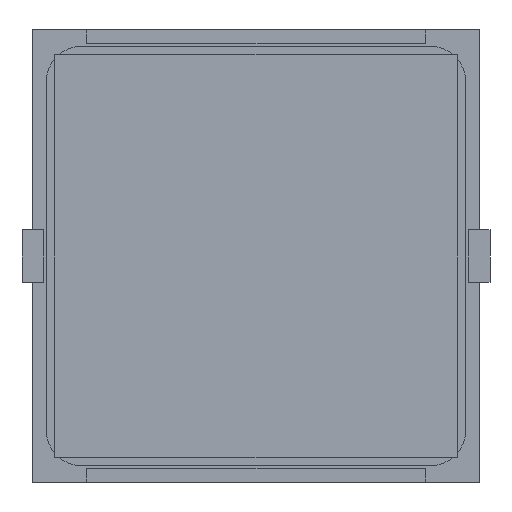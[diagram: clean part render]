
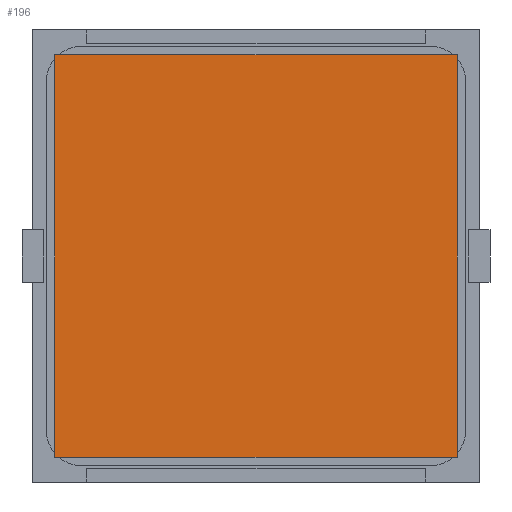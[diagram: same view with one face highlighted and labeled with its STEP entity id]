
A CAD part, front view. The second image highlights one B-rep face of the part: STEP entity #196.
In plain terms, the highlighted planar face has unit normal (0, -1, 0).
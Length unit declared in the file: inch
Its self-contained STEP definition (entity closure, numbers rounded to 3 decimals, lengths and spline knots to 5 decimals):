
#196 = ADVANCED_FACE ( 'NONE', ( #893 ), #8140, .F. ) ;
#735 = DIRECTION ( 'NONE',  ( 0., 0., 1. ) ) ;
#752 = AXIS2_PLACEMENT_3D ( 'NONE', #7231, #2035, #8202 ) ;
#893 = FACE_OUTER_BOUND ( 'NONE', #9799, .T. ) ;
#993 = EDGE_CURVE ( 'NONE', #9919, #3291, #3055, .T. ) ;
#1190 = VECTOR ( 'NONE', #9598, 39.37008 ) ;
#1654 = CARTESIAN_POINT ( 'NONE',  ( -0.74803, -0.005, -0.74803 ) ) ;
#2035 = DIRECTION ( 'NONE',  ( 0., 1., 0. ) ) ;
#2394 = ORIENTED_EDGE ( 'NONE', *, *, #993, .F. ) ;
#3055 = LINE ( 'NONE', #11288, #4165 ) ;
#3291 = VERTEX_POINT ( 'NONE', #10960 ) ;
#3672 = EDGE_CURVE ( 'NONE', #3291, #4730, #8042, .T. ) ;
#3784 = ORIENTED_EDGE ( 'NONE', *, *, #3858, .F. ) ;
#3858 = EDGE_CURVE ( 'NONE', #4730, #6341, #7617, .T. ) ;
#4120 = DIRECTION ( 'NONE',  ( -1., 0., 0. ) ) ;
#4165 = VECTOR ( 'NONE', #4120, 39.37008 ) ;
#4730 = VERTEX_POINT ( 'NONE', #5441 ) ;
#4964 = ORIENTED_EDGE ( 'NONE', *, *, #3672, .F. ) ;
#4975 = CARTESIAN_POINT ( 'NONE',  ( 0.74803, -0.005, -0.74803 ) ) ;
#5441 = CARTESIAN_POINT ( 'NONE',  ( -0.74803, -0.005, 0.74803 ) ) ;
#6341 = VERTEX_POINT ( 'NONE', #11300 ) ;
#6723 = VECTOR ( 'NONE', #735, 39.37008 ) ;
#7231 = CARTESIAN_POINT ( 'NONE',  ( -0.74803, -0.005, 0.74803 ) ) ;
#7617 = LINE ( 'NONE', #11256, #8070 ) ;
#7732 = DIRECTION ( 'NONE',  ( 1., 0., 0. ) ) ;
#7883 = EDGE_CURVE ( 'NONE', #6341, #9919, #9539, .T. ) ;
#8042 = LINE ( 'NONE', #1654, #6723 ) ;
#8070 = VECTOR ( 'NONE', #7732, 39.37008 ) ;
#8140 = PLANE ( 'NONE',  #752 ) ;
#8202 = DIRECTION ( 'NONE',  ( 0., 0., 1. ) ) ;
#9539 = LINE ( 'NONE', #4975, #1190 ) ;
#9598 = DIRECTION ( 'NONE',  ( 0., 0., -1. ) ) ;
#9799 = EDGE_LOOP ( 'NONE', ( #4964, #2394, #11098, #3784 ) ) ;
#9919 = VERTEX_POINT ( 'NONE', #10736 ) ;
#10736 = CARTESIAN_POINT ( 'NONE',  ( 0.74803, -0.005, -0.74803 ) ) ;
#10960 = CARTESIAN_POINT ( 'NONE',  ( -0.74803, -0.005, -0.74803 ) ) ;
#11098 = ORIENTED_EDGE ( 'NONE', *, *, #7883, .F. ) ;
#11256 = CARTESIAN_POINT ( 'NONE',  ( -0.74803, -0.005, 0.74803 ) ) ;
#11288 = CARTESIAN_POINT ( 'NONE',  ( -0.74803, -0.005, -0.74803 ) ) ;
#11300 = CARTESIAN_POINT ( 'NONE',  ( 0.74803, -0.005, 0.74803 ) ) ;
